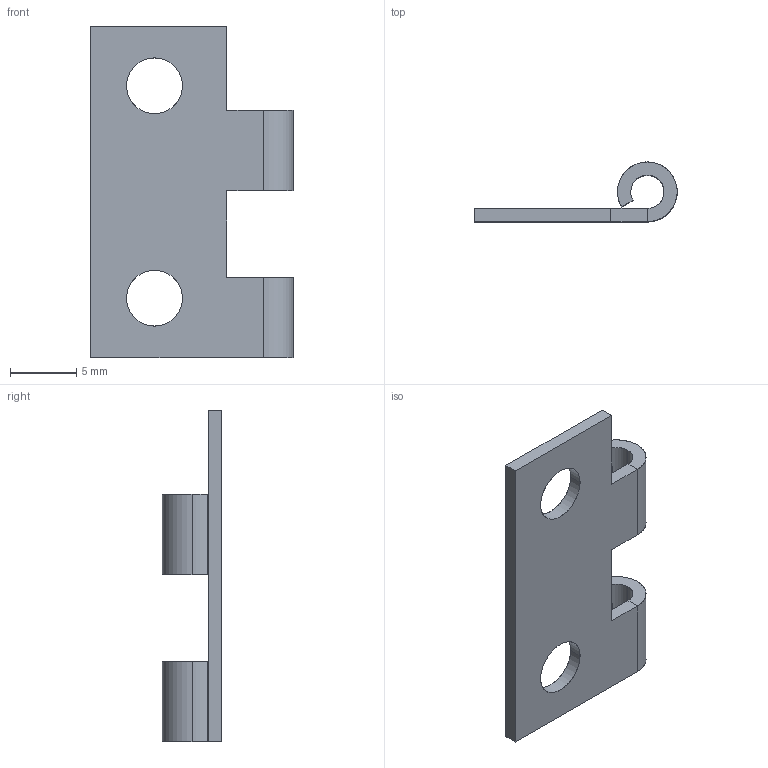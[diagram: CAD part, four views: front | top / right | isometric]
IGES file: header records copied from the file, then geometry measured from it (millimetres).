
Start section: SolidWorks IGES file using analytic representation for surfaces
Global section: file name: C:\Users\cbrechard\Desktop\425.010.00.IGS; native system: SolidWorks 2008; preprocessor: SolidWorks 2008; author: cbrechard; date: 140107.173549; units: millimetre
Bounding box: 15.25 x 4.5 x 25 mm (x, y, z)
Surface area: 890.6 mm2 (no closed solid volume)
Topology: 0 solids, 0 shells, 32 faces, 468 edges, 468 vertices
Faces by surface type: revolution 16, bspline 16
